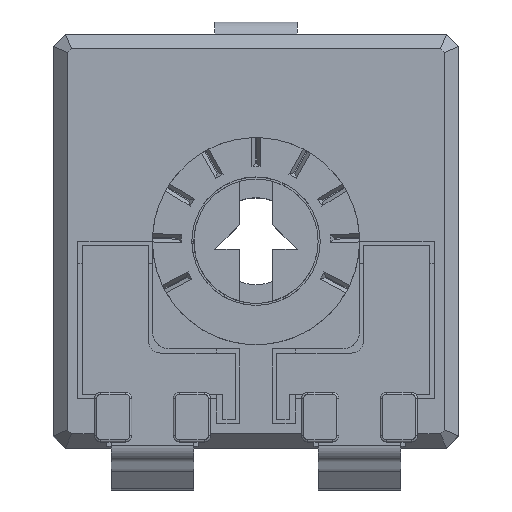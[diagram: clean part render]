
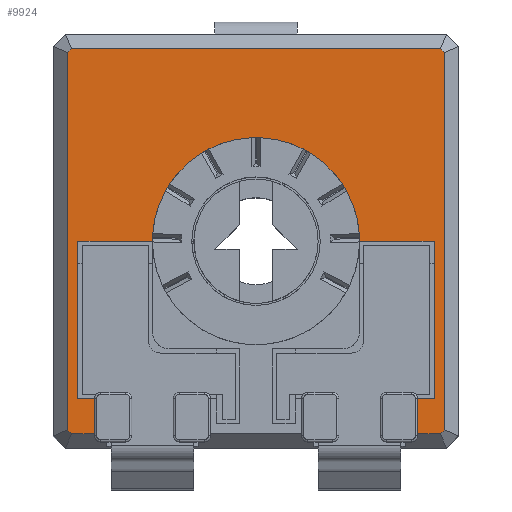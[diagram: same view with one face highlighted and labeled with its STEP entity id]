
A CAD part, top view. The second image highlights one B-rep face of the part: STEP entity #9924.
In plain terms, the highlighted planar face has unit normal (0, 0, 1).
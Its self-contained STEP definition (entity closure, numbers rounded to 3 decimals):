
#183=PLANE('',#10609);
#654=FACE_OUTER_BOUND('',#1168,.T.);
#1168=EDGE_LOOP('',(#7390,#7391,#7392,#7393,#7394,#7395,#7396,#7397,#7398,
#7399,#7400,#7401,#7402,#7403,#7404,#7405,#7406,#7407));
#1781=LINE('',#14534,#2950);
#1834=LINE('',#14750,#3003);
#1889=LINE('',#14870,#3058);
#1911=LINE('',#14914,#3080);
#1912=LINE('',#14916,#3081);
#1913=LINE('',#14918,#3082);
#1914=LINE('',#14920,#3083);
#1915=LINE('',#14922,#3084);
#1916=LINE('',#14924,#3085);
#1917=LINE('',#14926,#3086);
#1918=LINE('',#14928,#3087);
#1919=LINE('',#14929,#3088);
#1920=LINE('',#14931,#3089);
#1921=LINE('',#14933,#3090);
#1922=LINE('',#14935,#3091);
#1923=LINE('',#14939,#3092);
#1924=LINE('',#14940,#3093);
#2950=VECTOR('',#11688,10.);
#3003=VECTOR('',#11935,10.);
#3058=VECTOR('',#12050,10.);
#3080=VECTOR('',#12086,10.);
#3081=VECTOR('',#12087,10.);
#3082=VECTOR('',#12088,10.);
#3083=VECTOR('',#12089,10.);
#3084=VECTOR('',#12090,10.);
#3085=VECTOR('',#12091,10.);
#3086=VECTOR('',#12092,10.);
#3087=VECTOR('',#12093,10.);
#3088=VECTOR('',#12094,10.);
#3089=VECTOR('',#12095,10.);
#3090=VECTOR('',#12096,10.);
#3091=VECTOR('',#12097,10.);
#3092=VECTOR('',#12100,10.);
#3093=VECTOR('',#12101,10.);
#4017=CIRCLE('',#10610,2.5);
#4380=VERTEX_POINT('',#14531);
#4381=VERTEX_POINT('',#14533);
#4446=VERTEX_POINT('',#14747);
#4447=VERTEX_POINT('',#14749);
#4482=VERTEX_POINT('',#14869);
#4497=VERTEX_POINT('',#14913);
#4498=VERTEX_POINT('',#14915);
#4499=VERTEX_POINT('',#14917);
#4500=VERTEX_POINT('',#14919);
#4501=VERTEX_POINT('',#14921);
#4502=VERTEX_POINT('',#14923);
#4503=VERTEX_POINT('',#14925);
#4504=VERTEX_POINT('',#14927);
#4505=VERTEX_POINT('',#14930);
#4506=VERTEX_POINT('',#14932);
#4507=VERTEX_POINT('',#14934);
#4508=VERTEX_POINT('',#14936);
#4509=VERTEX_POINT('',#14938);
#5395=EDGE_CURVE('',#4381,#4380,#1781,.T.);
#5503=EDGE_CURVE('',#4447,#4446,#1834,.T.);
#5565=EDGE_CURVE('',#4482,#4381,#1889,.T.);
#5588=EDGE_CURVE('',#4497,#4380,#1911,.T.);
#5589=EDGE_CURVE('',#4498,#4497,#1912,.T.);
#5590=EDGE_CURVE('',#4499,#4498,#1913,.T.);
#5591=EDGE_CURVE('',#4500,#4499,#1914,.T.);
#5592=EDGE_CURVE('',#4501,#4500,#1915,.T.);
#5593=EDGE_CURVE('',#4502,#4501,#1916,.T.);
#5594=EDGE_CURVE('',#4503,#4502,#1917,.T.);
#5595=EDGE_CURVE('',#4504,#4503,#1918,.T.);
#5596=EDGE_CURVE('',#4447,#4504,#1919,.T.);
#5597=EDGE_CURVE('',#4446,#4505,#1920,.T.);
#5598=EDGE_CURVE('',#4505,#4506,#1921,.T.);
#5599=EDGE_CURVE('',#4506,#4507,#1922,.T.);
#5600=EDGE_CURVE('',#4507,#4508,#4017,.T.);
#5601=EDGE_CURVE('',#4508,#4509,#1923,.T.);
#5602=EDGE_CURVE('',#4509,#4482,#1924,.T.);
#7390=ORIENTED_EDGE('',*,*,#5395,.T.);
#7391=ORIENTED_EDGE('',*,*,#5588,.F.);
#7392=ORIENTED_EDGE('',*,*,#5589,.F.);
#7393=ORIENTED_EDGE('',*,*,#5590,.F.);
#7394=ORIENTED_EDGE('',*,*,#5591,.F.);
#7395=ORIENTED_EDGE('',*,*,#5592,.F.);
#7396=ORIENTED_EDGE('',*,*,#5593,.F.);
#7397=ORIENTED_EDGE('',*,*,#5594,.F.);
#7398=ORIENTED_EDGE('',*,*,#5595,.F.);
#7399=ORIENTED_EDGE('',*,*,#5596,.F.);
#7400=ORIENTED_EDGE('',*,*,#5503,.T.);
#7401=ORIENTED_EDGE('',*,*,#5597,.T.);
#7402=ORIENTED_EDGE('',*,*,#5598,.T.);
#7403=ORIENTED_EDGE('',*,*,#5599,.T.);
#7404=ORIENTED_EDGE('',*,*,#5600,.T.);
#7405=ORIENTED_EDGE('',*,*,#5601,.T.);
#7406=ORIENTED_EDGE('',*,*,#5602,.T.);
#7407=ORIENTED_EDGE('',*,*,#5565,.T.);
#9924=ADVANCED_FACE('',(#654),#183,.T.);
#10609=AXIS2_PLACEMENT_3D('',#14912,#12084,#12085);
#10610=AXIS2_PLACEMENT_3D('',#14937,#12098,#12099);
#11688=DIRECTION('',(0.,-1.,0.));
#11935=DIRECTION('',(0.,1.,0.));
#12050=DIRECTION('',(-1.,0.,0.));
#12084=DIRECTION('center_axis',(0.,0.,1.));
#12085=DIRECTION('ref_axis',(1.,0.,0.));
#12086=DIRECTION('',(-1.,0.,0.));
#12087=DIRECTION('',(-0.707,-0.707,0.));
#12088=DIRECTION('',(0.,-1.,0.));
#12089=DIRECTION('',(0.707,-0.707,0.));
#12090=DIRECTION('',(1.,0.,0.));
#12091=DIRECTION('',(0.707,0.707,0.));
#12092=DIRECTION('',(0.,1.,0.));
#12093=DIRECTION('',(-0.707,0.707,0.));
#12094=DIRECTION('',(-1.,0.,0.));
#12095=DIRECTION('',(-1.,0.,0.));
#12096=DIRECTION('',(0.,1.,0.));
#12097=DIRECTION('',(1.,0.,0.));
#12098=DIRECTION('center_axis',(0.,0.,-1.));
#12099=DIRECTION('ref_axis',(-1.,0.,0.));
#12100=DIRECTION('',(1.,0.,0.));
#12101=DIRECTION('',(0.,-1.,0.));
#14531=CARTESIAN_POINT('',(-22.548,-17.64,0.));
#14533=CARTESIAN_POINT('',(-22.548,-16.79,0.));
#14534=CARTESIAN_POINT('',(-22.548,-15.415,0.));
#14747=CARTESIAN_POINT('',(-30.348,-16.79,0.));
#14749=CARTESIAN_POINT('',(-30.348,-17.64,0.));
#14750=CARTESIAN_POINT('',(-30.348,-14.815,0.));
#14869=CARTESIAN_POINT('',(-22.148,-16.79,0.));
#14870=CARTESIAN_POINT('',(-24.648,-16.79,0.));
#14912=CARTESIAN_POINT('Origin',(-26.448,-12.99,0.));
#14913=CARTESIAN_POINT('',(-21.993,-17.64,0.));
#14914=CARTESIAN_POINT('',(-28.748,-17.64,0.));
#14915=CARTESIAN_POINT('',(-21.898,-17.545,0.));
#14916=CARTESIAN_POINT('',(-21.995,-17.643,0.));
#14917=CARTESIAN_POINT('',(-21.898,-8.435,0.));
#14918=CARTESIAN_POINT('',(-21.898,-15.34,0.));
#14919=CARTESIAN_POINT('',(-21.993,-8.34,0.));
#14920=CARTESIAN_POINT('',(-21.845,-8.488,0.));
#14921=CARTESIAN_POINT('',(-30.903,-8.34,0.));
#14922=CARTESIAN_POINT('',(-24.148,-8.34,0.));
#14923=CARTESIAN_POINT('',(-30.998,-8.435,0.));
#14924=CARTESIAN_POINT('',(-30.9,-8.338,0.));
#14925=CARTESIAN_POINT('',(-30.998,-17.545,0.));
#14926=CARTESIAN_POINT('',(-30.998,-10.64,0.));
#14927=CARTESIAN_POINT('',(-30.903,-17.64,0.));
#14928=CARTESIAN_POINT('',(-31.05,-17.493,0.));
#14929=CARTESIAN_POINT('',(-28.748,-17.64,0.));
#14930=CARTESIAN_POINT('',(-30.748,-16.79,0.));
#14931=CARTESIAN_POINT('',(-28.598,-16.79,0.));
#14932=CARTESIAN_POINT('',(-30.748,-12.99,0.));
#14933=CARTESIAN_POINT('',(-30.748,-12.99,0.));
#14934=CARTESIAN_POINT('',(-28.948,-12.99,0.));
#14935=CARTESIAN_POINT('',(-27.698,-12.99,0.));
#14936=CARTESIAN_POINT('',(-23.948,-12.99,0.));
#14937=CARTESIAN_POINT('Origin',(-26.448,-12.99,0.));
#14938=CARTESIAN_POINT('',(-22.148,-12.99,0.));
#14939=CARTESIAN_POINT('',(-24.298,-12.99,0.));
#14940=CARTESIAN_POINT('',(-22.148,-14.89,0.));
